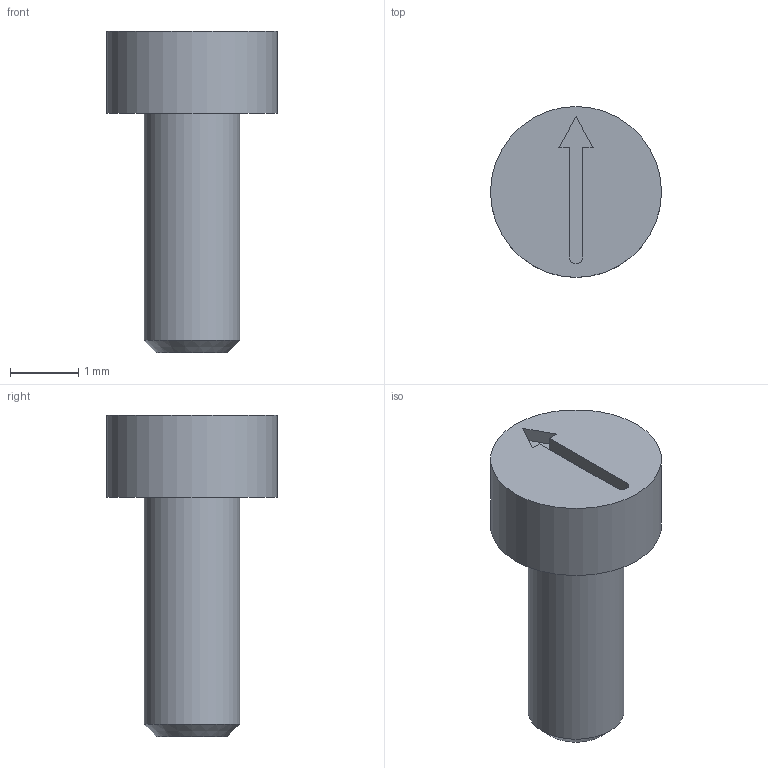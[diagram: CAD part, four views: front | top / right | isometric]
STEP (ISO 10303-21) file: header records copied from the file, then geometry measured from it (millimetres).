
FILE_DESCRIPTION(/* description */ (''),/* implementation_level */ '2;1');
FILE_NAME(/* name */ 'IMC-D2400-IB4.step',/* time_stamp */ '2025-11-05T11:08:52+01:00',/* author */ (''),/* organization */ (''),/* preprocessor_version */ 'ST-DEVELOPER v20.1',/* originating_system */ 'Autodesk Translation Framework v14.17.0.0',/* authorisation */ '');
FILE_SCHEMA (('AUTOMOTIVE_DESIGN { 1 0 10303 214 3 1 1 }'));
Length unit declared in the file: millimetre
Products named in the file (1): D2400-IB4
Bounding box: 2.5 x 2.5 x 4.7 mm (x, y, z)
Volume: 11.1 mm3; surface area: 35.1 mm2
Topology: 1 solids, 1 shells, 14 faces, 29 edges, 19 vertices
Faces by surface type: plane 10, cylinder 3, cone 1
Full cylindrical faces by diameter (mm): 1.4 x1, 2.5 x1
Entity records: 405 total; most frequent: DIRECTION 66, CARTESIAN_POINT 63, ORIENTED_EDGE 58, EDGE_CURVE 29, LINE 22, VECTOR 22, AXIS2_PLACEMENT_3D 22, VERTEX_POINT 19
